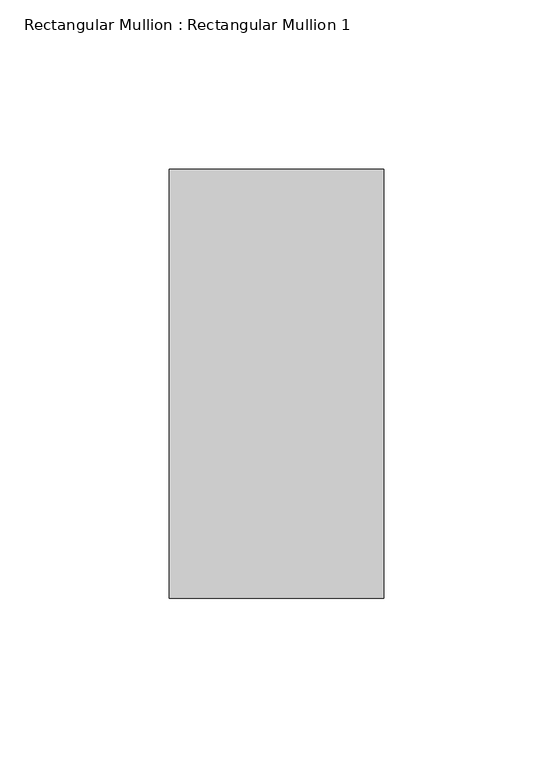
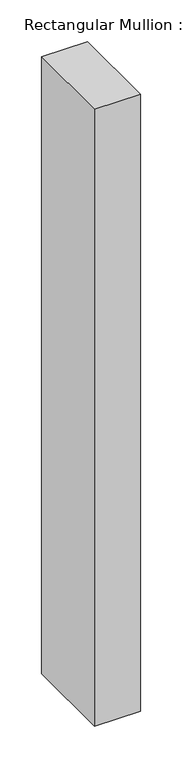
"""IFC4 building model written with IfcOpenShell, lengths in millimetres: member geometry, Rectangular Mullion : Rectangular Mullion 1."""

from ifc_helpers import new_model, si_unit, frame, origin, place, context, project, spatial, polyline, outline, extrude, source, transform, mapped, element, save


def rectangular_mullion_rectangular_mullion_1_4af42d76(model_context):
    return source(origin(), model_context, "Body", "SweptSolid", [
        extrude(outline(polyline([(31.75, 63.5), (31.75, -63.5), (-31.75, -63.5), (-31.75, 63.5), (31.75, 63.5)])), frame((0.0, 0.0, -902.9257062), z_axis=(0.0, 0.0, 1.0), x_axis=(1.0, 0.0, 0.0)), (0.0, 0.0, 1.0), 902.9257062),
    ])


if __name__ == "__main__":
    model = new_model("IFC4")
    model_context = context("Model", 3, world=origin())
    ifc_project = project(units=[si_unit("LENGTHUNIT", "METRE", prefix="MILLI")], contexts=[model_context])
    site = spatial("IfcSite", under=ifc_project)
    building = spatial("IfcBuilding", under=site)
    placement = place(None, origin())
    rectangular_mullion_rectangular_mullion_1_shape = rectangular_mullion_rectangular_mullion_1_4af42d76(model_context)
    element("IfcMember", 1, ObjectType="Rectangular Mullion : Rectangular Mullion 1", at=placement, inside=building, context=model_context, shape_type="MappedRepresentation", body=[
        mapped(rectangular_mullion_rectangular_mullion_1_shape, transform((0.0, 0.0, 0.0), x_axis=(1.0, 0.0, 0.0), y_axis=(0.0, 1.0, 0.0), z_axis=(0.0, 0.0, 1.0))),
    ])
    save(model, "model.ifc")
